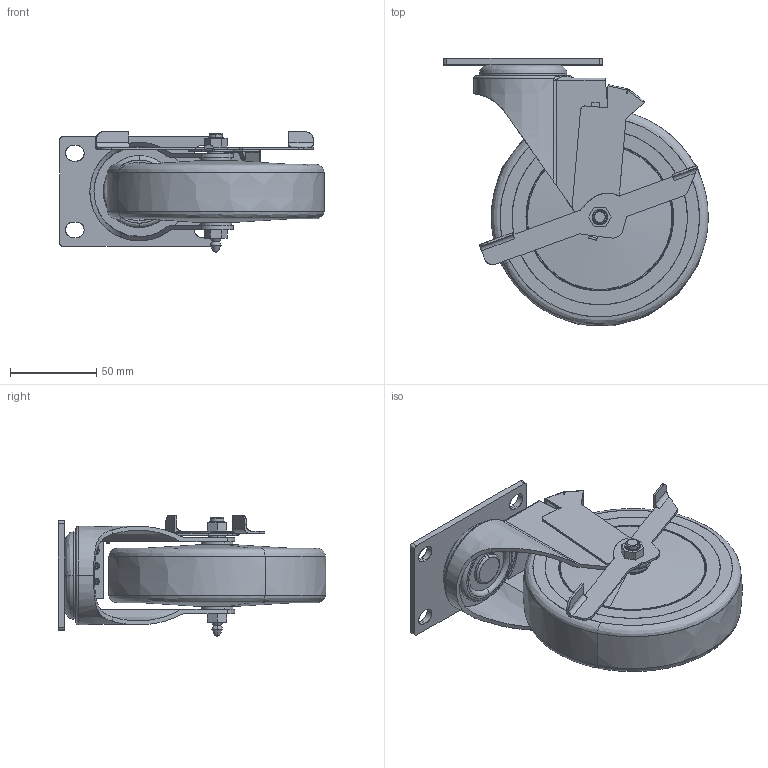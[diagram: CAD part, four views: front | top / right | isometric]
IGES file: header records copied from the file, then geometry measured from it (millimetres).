
Start section: SolidWorks IGES file using analytic representation for surfaces
Global section: file name: Z:\Tyler Manz\Output\2024\2024-07-16\5'' Swivel Caster with Brake - Non Marking Polyurethane Wheel\SCC-20S514-PPUB-TLB-BLACK 3D IGES.IGS; native system: SolidWorks 2016; preprocessor: SolidWorks 2016; author: sarthak.vpanchal; date: 240716.211833; units: inch
Bounding box: 153.38 x 154.99 x 69.95 mm (x, y, z)
Surface area: 119601.5 mm2 (no closed solid volume)
Topology: 0 solids, 0 shells, 427 faces, 6653 edges, 6653 vertices
Faces by surface type: bspline 261, revolution 166
